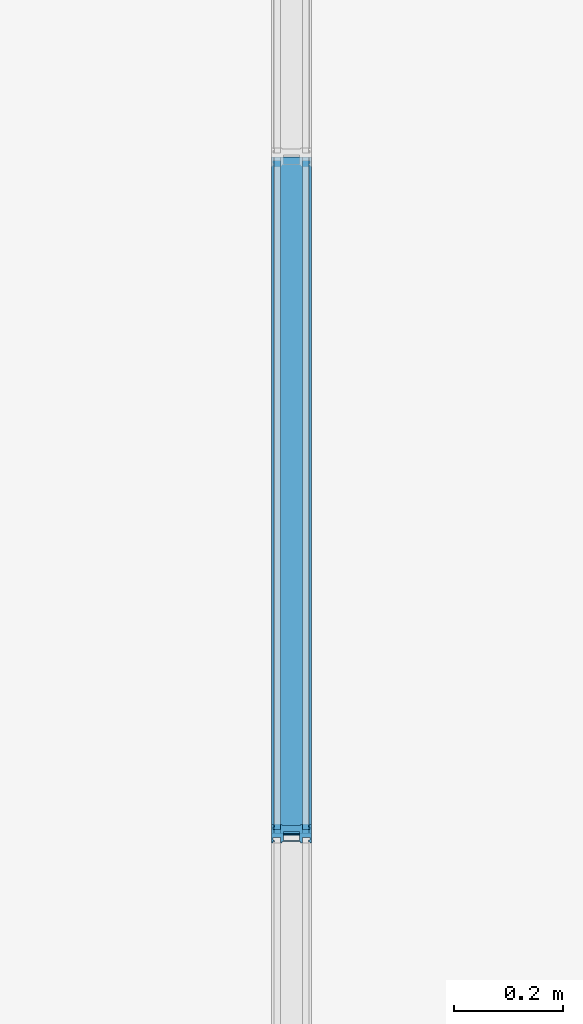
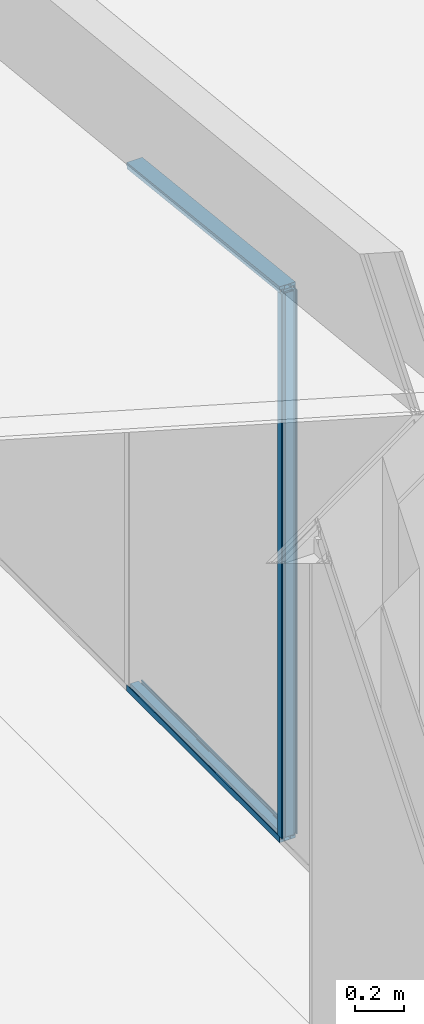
# One storey, part 18 of 43: 3 members, 1 element without a shape of its own.
"""IFC2X3 building model written with IfcOpenShell, lengths in millimetres."""

from ifc_helpers import new_model, entity, si_unit, converted_unit, derived_unit, money_unit, direction, frame, origin_with_axes, place, context, subcontext, project, spatial, faceted_brep, material, material_list, type_object, element, aggregate, save


model = new_model("IFC2X3")

# Units and contexts
model_context = context("Model", 3, precision=0.01, world=origin_with_axes(), true_north=direction((0.0, 1.0)))
body_context = subcontext(model_context, "Body", "Model", "MODEL_VIEW")
ifc_project = project(units=[si_unit("LENGTHUNIT", "METRE", prefix="MILLI"), si_unit("AREAUNIT", "SQUARE_METRE"), si_unit("VOLUMEUNIT", "CUBIC_METRE"), converted_unit("PLANEANGLEUNIT", "DEGREE", entity("IfcPlaneAngleMeasure", 0.0174532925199), si_unit("PLANEANGLEUNIT", "RADIAN"), dimensions=[0, 0, 0, 0, 0, 0, 0]), si_unit("SOLIDANGLEUNIT", "STERADIAN"), money_unit("EUR"), converted_unit("TIMEUNIT", "Year", entity("IfcTimeMeasure", 31556926.0), si_unit("TIMEUNIT", "SECOND"), dimensions=[0, 0, 1, 0, 0, 0, 0]), si_unit("MASSUNIT", "GRAM", prefix="KILO"), si_unit("THERMODYNAMICTEMPERATUREUNIT", "DEGREE_CELSIUS"), si_unit("LUMINOUSINTENSITYUNIT", "LUMEN"), si_unit("ENERGYUNIT", "JOULE", prefix="MEGA"), derived_unit("THERMALCONDUCTANCEUNIT", [(si_unit("POWERUNIT", "WATT"), 1), (si_unit("LENGTHUNIT", "METRE"), -1), (si_unit("THERMODYNAMICTEMPERATUREUNIT", "KELVIN"), -1)]), derived_unit("SPECIFICHEATCAPACITYUNIT", [(si_unit("ENERGYUNIT", "JOULE"), 1), (si_unit("MASSUNIT", "GRAM", prefix="KILO"), -1), (si_unit("THERMODYNAMICTEMPERATUREUNIT", "KELVIN"), -1)]), derived_unit("MASSDENSITYUNIT", [(si_unit("MASSUNIT", "GRAM", prefix="KILO"), 1), (si_unit("VOLUMEUNIT", "CUBIC_METRE"), -1)])], contexts=[model_context])

# Site, building, storey
site_placement = place(None, origin_with_axes())
site = spatial("IfcSite", under=ifc_project, at=site_placement, Name="L.Koidula tn 11b", CompositionType="ELEMENT")
building_placement = place(site_placement, origin_with_axes())
building = spatial("IfcBuilding", under=site, at=building_placement, Name="Rakvere Riigigümnaasium", CompositionType="ELEMENT")
storey_placement = place(building_placement, frame((0.0, 0.0, 6665.0), z_axis=(0.0, 0.0, 1.0), x_axis=(1.0, 0.0, 0.0)))
storey = spatial("IfcBuildingStorey", under=building, at=storey_placement, Name="3.korrus +6,66", CompositionType="ELEMENT", Elevation=6665.0)

# Curtain wall, members
curtain_wall_type = type_object("IfcCurtainWallType", Name="Curtain Wall Type", PredefinedType="NOTDEFINED")
curtain_wall_placement = place(storey_placement, frame((47567.9999955, 27513.9554945, 0.0), z_axis=(0.0, 0.0, 1.0), x_axis=(1.0, 0.0, 0.0)))
curtain_wall = element("IfcCurtainWall", 1, at=curtain_wall_placement, inside=storey, type_object=curtain_wall_type, Name="SKLF-27")
ifc_material_1 = material(Name="Klaasvill")
ifc_material_2 = material(Name="Teras RAL7012")
ifc_material_list = material_list([ifc_material_1, ifc_material_2])
member_type_1 = type_object("IfcMemberType", Name="Boundary Frame 30 x 42", PredefinedType="MULLION")
member_1_placement = place(curtain_wall_placement, frame((0.0, -622.5, 0.0), z_axis=(0.0, -1.0, 0.0), x_axis=(0.0, 0.0, 1.0)))
member_1 = element("IfcMember", 2, at=member_1_placement, type_object=member_type_1, material=ifc_material_list, Name="SKLF-02-raam", ObjectType="MULLION", context=body_context, shape_type="Brep", body=[
    faceted_brep([(7.49999990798, 15.000000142, 0.0), (13.8499999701, 15.000000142, 0.0), (13.8499999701, 15.000000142, 1246.0), (7.49999990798, 15.000000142, 1246.0), (7.49999990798, 29.0161444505, 0.0), (13.8499999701, 29.0161444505, 0.0), (13.8499999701, 29.0161444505, 1246.0), (7.49999990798, 29.0161444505, 1246.0)], [[[0, 1, 2, 3]], [[0, 4, 5, 1]], [[1, 5, 6, 2]], [[3, 2, 6, 7]], [[4, 0, 3, 7]], [[5, 4, 7, 6]]]),
    faceted_brep([(24.987414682, 29.0161444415, 0.0), (25.004489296, 27.0307503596, 0.0), (25.004489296, 27.0307503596, 1246.0), (24.987414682, 29.0161444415, 1246.0), (28.5126239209, 29.0161444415, 0.0), (28.7655837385, 28.0385325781, 0.0), (28.4955493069, 27.0307503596, 0.0), (27.75780152, 26.2930025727, 0.0), (26.7500193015, 26.0229681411, 0.0), (25.742237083, 26.2930025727, 0.0), (25.742237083, 26.2930025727, 1246.0), (26.7500193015, 26.0229681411, 1246.0), (27.75780152, 26.2930025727, 1246.0), (28.4955493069, 27.0307503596, 1246.0), (28.7655837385, 28.0385325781, 1246.0), (28.5126239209, 29.0161444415, 1246.0)], [[[0, 1, 2, 3]], [[0, 4, 5, 6, 7, 8, 9, 1]], [[1, 9, 10, 2]], [[3, 2, 10, 11, 12, 13, 14, 15]], [[4, 0, 3, 15]], [[5, 4, 15, 14]], [[6, 5, 14, 13]], [[7, 6, 13, 12]], [[8, 7, 12, 11]], [[9, 8, 11, 10]]]),
    faceted_brep([(7.49999990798, -24.9999997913, 0.0), (7.49999990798, -39.0161445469, 0.0), (7.49999990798, -39.0161445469, 1246.0), (7.49999990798, -24.9999997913, 1246.0), (13.8499999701, -24.9999997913, 0.0), (13.8499999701, -39.0161445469, 0.0), (13.8499999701, -39.0161445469, 1246.0), (13.8499999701, -24.9999997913, 1246.0)], [[[0, 1, 2, 3]], [[0, 4, 5, 1]], [[1, 5, 6, 2]], [[3, 2, 6, 7]], [[4, 0, 3, 7]], [[5, 4, 7, 6]]]),
    faceted_brep([(25.004489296, -37.0307503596, 0.0), (24.987414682, -39.0161444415, 0.0), (24.987414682, -39.0161444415, 1246.0), (25.004489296, -37.0307503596, 1246.0), (25.742237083, -36.2930025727, 0.0), (26.7500193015, -36.0229681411, 0.0), (27.75780152, -36.2930025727, 0.0), (28.4955493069, -37.0307503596, 0.0), (28.7655837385, -38.0385325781, 0.0), (28.5126239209, -39.0161444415, 0.0), (28.5126239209, -39.0161444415, 1246.0), (28.7655837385, -38.0385325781, 1246.0), (28.4955493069, -37.0307503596, 1246.0), (27.75780152, -36.2930025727, 1246.0), (26.7500193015, -36.0229681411, 1246.0), (25.742237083, -36.2930025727, 1246.0)], [[[0, 1, 2, 3]], [[0, 4, 5, 6, 7, 8, 9, 1]], [[1, 9, 10, 2]], [[3, 2, 10, 11, 12, 13, 14, 15]], [[4, 0, 3, 15]], [[5, 4, 15, 14]], [[6, 5, 14, 13]], [[7, 6, 13, 12]], [[8, 7, 12, 11]], [[9, 8, 11, 10]]]),
    faceted_brep([(0.0, -22.0000000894, 0.0), (29.5999996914, -22.0000000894, 0.0), (29.5999996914, -22.0000000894, 1246.0), (0.0, -22.0000000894, 1246.0), (0.0, 12.0000000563, 0.0), (29.5999996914, 12.0000000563, 0.0), (1.9999999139, 10.0000001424, 0.0), (1.9999999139, -20.0000001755, 0.0), (18.7999996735, -20.0000001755, 0.0), (18.7999996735, 10.0000001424, 0.0), (29.5999996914, 12.0000000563, 1246.0), (0.0, 12.0000000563, 1246.0), (1.9999999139, 10.0000001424, 1246.0), (18.7999996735, 10.0000001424, 1246.0), (18.7999996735, -20.0000001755, 1246.0), (1.9999999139, -20.0000001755, 1246.0)], [[[0, 1, 2, 3]], [[0, 4, 5, 1], [6, 7, 8, 9]], [[1, 5, 10, 2]], [[3, 2, 10, 11], [12, 13, 14, 15]], [[4, 0, 3, 11]], [[5, 4, 11, 10]], [[7, 6, 12, 15]], [[8, 7, 15, 14]], [[9, 8, 14, 13]], [[6, 9, 13, 12]]]),
    faceted_brep([(0.0, 12.0, 0.0), (29.5999996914, 12.0000000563, 0.0), (29.5999996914, 12.0000000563, 1246.0), (0.0, 12.0, 1246.0), (0.0, 32.0, 0.0), (30.0000193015, 32.0, 0.0), (30.0000193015, 29.0161444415, 0.0), (28.5126239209, 29.0161444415, 0.0), (24.987414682, 29.0161444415, 0.0), (13.8499999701, 29.0161444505, 0.0), (7.49999999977, 29.0161444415, 0.0), (7.49999999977, 15.0, 0.0), (13.8499999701, 15.000000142, 0.0), (30.0000193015, 15.0, 0.0), (30.0000193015, 12.0, 0.0), (30.0000193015, 12.0, 1246.0), (30.0000193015, 15.0, 1246.0), (13.8499999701, 15.000000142, 1246.0), (7.49999999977, 15.0, 1246.0), (7.49999999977, 29.0161444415, 1246.0), (13.8499999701, 29.0161444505, 1246.0), (24.987414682, 29.0161444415, 1246.0), (28.5126239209, 29.0161444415, 1246.0), (30.0000193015, 29.0161444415, 1246.0), (30.0000193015, 32.0, 1246.0), (0.0, 32.0, 1246.0)], [[[0, 1, 2, 3]], [[0, 4, 5, 6, 7, 8, 9, 10, 11, 12, 13, 14, 1]], [[1, 14, 15, 2]], [[3, 2, 15, 16, 17, 18, 19, 20, 21, 22, 23, 24, 25]], [[4, 0, 3, 25]], [[5, 4, 25, 24]], [[6, 5, 24, 23]], [[7, 6, 23, 22]], [[8, 7, 22, 21]], [[9, 8, 21, 20]], [[10, 9, 20, 19]], [[11, 10, 19, 18]], [[12, 11, 18, 17]], [[13, 12, 17, 16]], [[14, 13, 16, 15]]]),
    faceted_brep([(0.0, -22.0, 0.0), (0.0, -42.0, 0.0), (0.0, -42.0, 1246.0), (0.0, -22.0, 1246.0), (29.5999996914, -22.0000000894, 0.0), (30.0000193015, -22.0, 0.0), (30.0000193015, -25.0, 0.0), (13.8499999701, -24.9999997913, 0.0), (7.49999999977, -25.0, 0.0), (7.49999999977, -39.0161444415, 0.0), (13.8499999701, -39.0161445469, 0.0), (24.987414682, -39.0161444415, 0.0), (28.5126239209, -39.0161444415, 0.0), (30.0000193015, -39.0161444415, 0.0), (30.0000193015, -42.0, 0.0), (30.0000193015, -42.0, 1246.0), (30.0000193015, -39.0161444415, 1246.0), (28.5126239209, -39.0161444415, 1246.0), (24.987414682, -39.0161444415, 1246.0), (13.8499999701, -39.0161445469, 1246.0), (7.49999999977, -39.0161444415, 1246.0), (7.49999999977, -25.0, 1246.0), (13.8499999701, -24.9999997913, 1246.0), (30.0000193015, -25.0, 1246.0), (30.0000193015, -22.0, 1246.0), (29.5999996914, -22.0000000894, 1246.0)], [[[0, 1, 2, 3]], [[0, 4, 5, 6, 7, 8, 9, 10, 11, 12, 13, 14, 1]], [[1, 14, 15, 2]], [[3, 2, 15, 16, 17, 18, 19, 20, 21, 22, 23, 24, 25]], [[4, 0, 3, 25]], [[5, 4, 25, 24]], [[6, 5, 24, 23]], [[7, 6, 23, 22]], [[8, 7, 22, 21]], [[9, 8, 21, 20]], [[10, 9, 20, 19]], [[11, 10, 19, 18]], [[12, 11, 18, 17]], [[13, 12, 17, 16]], [[14, 13, 16, 15]]]),
])
member_2_placement = place(curtain_wall_placement, frame((0.0, -1868.5, 2761.36989772), z_axis=(0.0, 0.994032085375, -0.109088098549), x_axis=(0.0, -0.109088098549, -0.994032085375)))
member_2 = element("IfcMember", 3, at=member_2_placement, type_object=member_type_1, material=ifc_material_list, Name="SKLF-06-raam", ObjectType="MULLION", context=body_context, shape_type="Brep", body=[
    faceted_brep([(7.49999990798, 15.000000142, -1.89357410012e-07), (13.8499999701, 15.000000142, -1.89357410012e-07), (13.8499999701, 15.000000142, 1253.48066579), (7.49999990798, 15.000000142, 1253.48066579), (7.49999990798, 29.0161444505, -1.89357410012e-07), (13.8499999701, 29.0161444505, -1.89357410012e-07), (13.8499999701, 29.0161444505, 1253.48066579), (7.49999990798, 29.0161444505, 1253.48066579)], [[[0, 1, 2, 3]], [[0, 4, 5, 1]], [[1, 5, 6, 2]], [[3, 2, 6, 7]], [[4, 0, 3, 7]], [[5, 4, 7, 6]]]),
    faceted_brep([(24.987414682, 29.0161444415, -1.89357410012e-07), (25.004489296, 27.0307503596, -1.89357410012e-07), (25.004489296, 27.0307503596, 1253.48066579), (24.987414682, 29.0161444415, 1253.48066579), (28.5126239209, 29.0161444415, -1.89357410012e-07), (28.7655837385, 28.0385325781, -1.89357410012e-07), (28.4955493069, 27.0307503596, -1.89357410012e-07), (27.75780152, 26.2930025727, -1.89357410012e-07), (26.7500193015, 26.0229681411, -1.89357410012e-07), (25.742237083, 26.2930025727, -1.89357410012e-07), (25.742237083, 26.2930025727, 1253.48066579), (26.7500193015, 26.0229681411, 1253.48066579), (27.75780152, 26.2930025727, 1253.48066579), (28.4955493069, 27.0307503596, 1253.48066579), (28.7655837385, 28.0385325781, 1253.48066579), (28.5126239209, 29.0161444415, 1253.48066579)], [[[0, 1, 2, 3]], [[0, 4, 5, 6, 7, 8, 9, 1]], [[1, 9, 10, 2]], [[3, 2, 10, 11, 12, 13, 14, 15]], [[4, 0, 3, 15]], [[5, 4, 15, 14]], [[6, 5, 14, 13]], [[7, 6, 13, 12]], [[8, 7, 12, 11]], [[9, 8, 11, 10]]]),
    faceted_brep([(7.49999990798, -24.9999997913, -1.89357410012e-07), (7.49999990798, -39.0161445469, -1.89357410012e-07), (7.49999990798, -39.0161445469, 1253.48066579), (7.49999990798, -24.9999997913, 1253.48066579), (13.8499999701, -24.9999997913, -1.89357410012e-07), (13.8499999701, -39.0161445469, -1.89357410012e-07), (13.8499999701, -39.0161445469, 1253.48066579), (13.8499999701, -24.9999997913, 1253.48066579)], [[[0, 1, 2, 3]], [[0, 4, 5, 1]], [[1, 5, 6, 2]], [[3, 2, 6, 7]], [[4, 0, 3, 7]], [[5, 4, 7, 6]]]),
    faceted_brep([(25.004489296, -37.0307503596, -1.89357410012e-07), (24.987414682, -39.0161444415, -1.89357410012e-07), (24.987414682, -39.0161444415, 1253.48066579), (25.004489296, -37.0307503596, 1253.48066579), (25.742237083, -36.2930025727, -1.89357410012e-07), (26.7500193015, -36.0229681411, -1.89357410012e-07), (27.75780152, -36.2930025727, -1.89357410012e-07), (28.4955493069, -37.0307503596, -1.89357410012e-07), (28.7655837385, -38.0385325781, -1.89357410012e-07), (28.5126239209, -39.0161444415, -1.89357410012e-07), (28.5126239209, -39.0161444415, 1253.48066579), (28.7655837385, -38.0385325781, 1253.48066579), (28.4955493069, -37.0307503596, 1253.48066579), (27.75780152, -36.2930025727, 1253.48066579), (26.7500193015, -36.0229681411, 1253.48066579), (25.742237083, -36.2930025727, 1253.48066579)], [[[0, 1, 2, 3]], [[0, 4, 5, 6, 7, 8, 9, 1]], [[1, 9, 10, 2]], [[3, 2, 10, 11, 12, 13, 14, 15]], [[4, 0, 3, 15]], [[5, 4, 15, 14]], [[6, 5, 14, 13]], [[7, 6, 13, 12]], [[8, 7, 12, 11]], [[9, 8, 11, 10]]]),
    faceted_brep([(0.0, -22.0000000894, -1.89357410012e-07), (29.5999996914, -22.0000000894, -1.89357410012e-07), (29.5999996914, -22.0000000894, 1253.48066579), (0.0, -22.0000000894, 1253.48066579), (0.0, 12.0000000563, -1.89357410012e-07), (29.5999996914, 12.0000000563, -1.89357410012e-07), (1.9999999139, 10.0000001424, -1.89357410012e-07), (1.9999999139, -20.0000001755, -1.89357410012e-07), (18.7999996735, -20.0000001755, -1.89357410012e-07), (18.7999996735, 10.0000001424, -1.89357410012e-07), (29.5999996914, 12.0000000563, 1253.48066579), (0.0, 12.0000000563, 1253.48066579), (1.9999999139, 10.0000001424, 1253.48066579), (18.7999996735, 10.0000001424, 1253.48066579), (18.7999996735, -20.0000001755, 1253.48066579), (1.9999999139, -20.0000001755, 1253.48066579)], [[[0, 1, 2, 3]], [[0, 4, 5, 1], [6, 7, 8, 9]], [[1, 5, 10, 2]], [[3, 2, 10, 11], [12, 13, 14, 15]], [[4, 0, 3, 11]], [[5, 4, 11, 10]], [[7, 6, 12, 15]], [[8, 7, 15, 14]], [[9, 8, 14, 13]], [[6, 9, 13, 12]]]),
    faceted_brep([(0.0, 12.0, -1.89357410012e-07), (29.5999996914, 12.0000000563, -1.89357410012e-07), (29.5999996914, 12.0000000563, 1253.48066579), (0.0, 12.0, 1253.48066579), (0.0, 32.0, -1.89357410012e-07), (30.0000193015, 32.0, -1.89357410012e-07), (30.0000193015, 29.0161444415, -1.89357410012e-07), (28.5126239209, 29.0161444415, -1.89357410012e-07), (24.987414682, 29.0161444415, -1.89357410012e-07), (13.8499999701, 29.0161444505, -1.89357410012e-07), (7.49999999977, 29.0161444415, -1.89357410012e-07), (7.49999999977, 15.0, -1.89357410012e-07), (13.8499999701, 15.000000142, -1.89357410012e-07), (30.0000193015, 15.0, -1.89357410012e-07), (30.0000193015, 12.0, -1.89357410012e-07), (30.0000193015, 12.0, 1253.48066579), (30.0000193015, 15.0, 1253.48066579), (13.8499999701, 15.000000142, 1253.48066579), (7.49999999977, 15.0, 1253.48066579), (7.49999999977, 29.0161444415, 1253.48066579), (13.8499999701, 29.0161444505, 1253.48066579), (24.987414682, 29.0161444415, 1253.48066579), (28.5126239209, 29.0161444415, 1253.48066579), (30.0000193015, 29.0161444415, 1253.48066579), (30.0000193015, 32.0, 1253.48066579), (0.0, 32.0, 1253.48066579)], [[[0, 1, 2, 3]], [[0, 4, 5, 6, 7, 8, 9, 10, 11, 12, 13, 14, 1]], [[1, 14, 15, 2]], [[3, 2, 15, 16, 17, 18, 19, 20, 21, 22, 23, 24, 25]], [[4, 0, 3, 25]], [[5, 4, 25, 24]], [[6, 5, 24, 23]], [[7, 6, 23, 22]], [[8, 7, 22, 21]], [[9, 8, 21, 20]], [[10, 9, 20, 19]], [[11, 10, 19, 18]], [[12, 11, 18, 17]], [[13, 12, 17, 16]], [[14, 13, 16, 15]]]),
    faceted_brep([(0.0, -22.0, -1.89357410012e-07), (0.0, -42.0, -1.89357410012e-07), (0.0, -42.0, 1253.48066579), (0.0, -22.0, 1253.48066579), (29.5999996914, -22.0000000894, -1.89357410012e-07), (30.0000193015, -22.0, -1.89357410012e-07), (30.0000193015, -25.0, -1.89357410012e-07), (13.8499999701, -24.9999997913, -1.89357410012e-07), (7.49999999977, -25.0, -1.89357410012e-07), (7.49999999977, -39.0161444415, -1.89357410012e-07), (13.8499999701, -39.0161445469, -1.89357410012e-07), (24.987414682, -39.0161444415, -1.89357410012e-07), (28.5126239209, -39.0161444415, -1.89357410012e-07), (30.0000193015, -39.0161444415, -1.89357410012e-07), (30.0000193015, -42.0, -1.89357410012e-07), (30.0000193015, -42.0, 1253.48066579), (30.0000193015, -39.0161444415, 1253.48066579), (28.5126239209, -39.0161444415, 1253.48066579), (24.987414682, -39.0161444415, 1253.48066579), (13.8499999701, -39.0161445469, 1253.48066579), (7.49999999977, -39.0161444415, 1253.48066579), (7.49999999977, -25.0, 1253.48066579), (13.8499999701, -24.9999997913, 1253.48066579), (30.0000193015, -25.0, 1253.48066579), (30.0000193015, -22.0, 1253.48066579), (29.5999996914, -22.0000000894, 1253.48066579)], [[[0, 1, 2, 3]], [[0, 4, 5, 6, 7, 8, 9, 10, 11, 12, 13, 14, 1]], [[1, 14, 15, 2]], [[3, 2, 15, 16, 17, 18, 19, 20, 21, 22, 23, 24, 25]], [[4, 0, 3, 25]], [[5, 4, 25, 24]], [[6, 5, 24, 23]], [[7, 6, 23, 22]], [[8, 7, 22, 21]], [[9, 8, 21, 20]], [[10, 9, 20, 19]], [[11, 10, 19, 18]], [[12, 11, 18, 17]], [[13, 12, 17, 16]], [[14, 13, 16, 15]]]),
])
member_type_2 = type_object("IfcMemberType", Name="Siseklaasfassaad-Vaheprofiil-Doubleline30 34 x 42", PredefinedType="MULLION")
member_3_placement = place(curtain_wall_placement, frame((0.0, -1868.5, 0.0), z_axis=(0.0, 0.0, 1.0), x_axis=(0.0, 1.0, 0.0)))
member_3 = element("IfcMember", 4, at=member_3_placement, type_object=member_type_2, material=ifc_material_list, Name="Frame-Siseklaasf-089", ObjectType="MULLION", context=body_context, shape_type="Brep", body=[
    faceted_brep([(12.004489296, 27.0307503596, 30.0000193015), (12.004489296, 27.0307503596, 2729.87235668), (11.987414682, 29.0161444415, 2729.8742305), (11.987414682, 29.0161444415, 30.0000193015), (12.742237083, 26.2930025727, 30.0000193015), (12.742237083, 26.2930025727, 2729.79139398), (13.7500193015, 26.0229681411, 2729.68079689), (14.75780152, 26.2930025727, 2729.5701998), (15.4955493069, 27.0307503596, 2729.48923711), (15.7655837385, 28.0385325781, 2729.45960271), (15.5126239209, 29.0161444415, 2729.48736329), (15.5126239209, 29.0161444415, 30.0000193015), (15.7655837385, 28.0385325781, 30.0000193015), (15.4955493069, 27.0307503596, 30.0000193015), (14.75780152, 26.2930025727, 30.0000193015), (13.7500193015, 26.0229681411, 30.0000193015)], [[[0, 1, 2, 3]], [[4, 5, 1, 0]], [[2, 1, 5, 6, 7, 8, 9, 10]], [[3, 2, 10, 11]], [[3, 11, 12, 13, 14, 15, 4, 0]], [[15, 6, 5, 4]], [[14, 7, 6, 15]], [[13, 8, 7, 14]], [[12, 9, 8, 13]], [[11, 10, 9, 12]]]),
    faceted_brep([(15.4955493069, -37.0307503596, 30.0000193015), (15.4955493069, -37.0307503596, 2729.48923711), (15.5126239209, -39.0161444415, 2729.48736329), (15.5126239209, -39.0161444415, 30.0000193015), (14.75780152, -36.2930025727, 30.0000193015), (14.75780152, -36.2930025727, 2729.5701998), (13.7500193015, -36.0229681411, 2729.68079689), (12.742237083, -36.2930025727, 2729.79139398), (12.004489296, -37.0307503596, 2729.87235668), (11.7344548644, -38.0385325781, 2729.90199108), (11.987414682, -39.0161444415, 2729.8742305), (11.987414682, -39.0161444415, 30.0000193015), (11.7344548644, -38.0385325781, 30.0000193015), (12.004489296, -37.0307503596, 30.0000193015), (12.742237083, -36.2930025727, 30.0000193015), (13.7500193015, -36.0229681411, 30.0000193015)], [[[0, 1, 2, 3]], [[4, 5, 1, 0]], [[2, 1, 5, 6, 7, 8, 9, 10]], [[3, 2, 10, 11]], [[3, 11, 12, 13, 14, 15, 4, 0]], [[15, 6, 5, 4]], [[14, 7, 6, 15]], [[13, 8, 7, 14]], [[12, 9, 8, 13]], [[11, 10, 9, 12]]]),
    faceted_brep([(-15.7655837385, 28.0385325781, 30.0000193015), (-15.7655837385, 28.0385325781, 2732.91992914), (-11.987414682, 29.0161444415, 2732.50530135), (-11.987414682, 29.0161444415, 30.0000193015), (-15.4955493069, 27.0307503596, 30.0000193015), (-15.4955493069, 27.0307503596, 2732.89029474), (-14.75780152, 26.2930025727, 2732.80933205), (-13.7500193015, 26.0229681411, 2732.69873496), (-12.742237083, 26.2930025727, 2732.58813787), (-12.004489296, 27.0307503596, 2732.50717518), (-11.7344548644, 28.0385325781, 2732.47754077), (-11.7344548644, 28.0385325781, 30.0000193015), (-12.004489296, 27.0307503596, 30.0000193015), (-12.742237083, 26.2930025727, 30.0000193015), (-13.7500193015, 26.0229681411, 30.0000193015), (-14.75780152, 26.2930025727, 30.0000193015)], [[[0, 1, 2, 3]], [[4, 5, 1, 0]], [[2, 1, 5, 6, 7, 8, 9, 10]], [[3, 2, 10, 11]], [[3, 11, 12, 13, 14, 15, 4, 0]], [[15, 6, 5, 4]], [[14, 7, 6, 15]], [[13, 8, 7, 14]], [[12, 9, 8, 13]], [[11, 10, 9, 12]]]),
    faceted_brep([(-15.5126239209, -39.0161444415, 30.0000193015), (-15.5126239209, -39.0161444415, 2732.89216856), (-15.4955493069, -37.0307503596, 2732.89029474), (-15.4955493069, -37.0307503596, 30.0000193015), (-11.987414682, -39.0161444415, 30.0000193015), (-11.987414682, -39.0161444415, 2732.50530135), (-11.7344548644, -38.0385325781, 2732.47754077), (-12.004489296, -37.0307503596, 2732.50717518), (-12.742237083, -36.2930025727, 2732.58813787), (-13.7500193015, -36.0229681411, 2732.69873496), (-14.75780152, -36.2930025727, 2732.80933205), (-14.75780152, -36.2930025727, 30.0000193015), (-13.7500193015, -36.0229681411, 30.0000193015), (-12.742237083, -36.2930025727, 30.0000193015), (-12.004489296, -37.0307503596, 30.0000193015), (-11.7344548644, -38.0385325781, 30.0000193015)], [[[0, 1, 2, 3]], [[4, 5, 1, 0]], [[2, 1, 5, 6, 7, 8, 9, 10]], [[3, 2, 10, 11]], [[3, 11, 12, 13, 14, 15, 4, 0]], [[15, 6, 5, 4]], [[14, 7, 6, 15]], [[13, 8, 7, 14]], [[12, 9, 8, 13]], [[11, 10, 9, 12]]]),
    faceted_brep([(-3.08905781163e-07, -22.0000000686, 30.0000193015), (-3.08905781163e-07, -22.0000000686, 2731.18976596), (-14.8000001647, -22.0000000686, 2732.81396306), (-14.8000001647, -22.0000000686, 30.0000193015), (14.8000003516, -22.0000000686, 30.0000193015), (14.8000003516, -22.0000000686, 2729.56556877), (14.8000003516, 12.0000001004, 2729.56556877), (-3.08905781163e-07, 12.0000001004, 2731.18976596), (-14.8000001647, 12.0000001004, 2732.81396306), (-12.8000002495, 10.0000001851, 2732.59447697), (4.0000003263, 10.0000001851, 2730.7507937), (4.0000003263, -20.0000001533, 2730.7507937), (-12.8000002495, -20.0000001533, 2732.59447697), (-14.8000001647, 12.0000001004, 30.0000193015), (-3.08905781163e-07, 12.0000001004, 30.0000193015), (14.8000003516, 12.0000001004, 30.0000193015), (-12.8000002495, 10.0000001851, 30.0000193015), (-12.8000002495, -20.0000001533, 30.0000193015), (4.0000003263, -20.0000001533, 30.0000193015), (4.0000003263, 10.0000001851, 30.0000193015)], [[[0, 1, 2, 3]], [[4, 5, 1, 0]], [[2, 1, 5, 6, 7, 8], [9, 10, 11, 12]], [[3, 2, 8, 13]], [[3, 13, 14, 15, 4, 0], [16, 17, 18, 19]], [[15, 6, 5, 4]], [[14, 7, 6, 15]], [[13, 8, 7, 14]], [[19, 10, 9, 16]], [[18, 11, 10, 19]], [[17, 12, 11, 18]], [[16, 9, 12, 17]]]),
    faceted_brep([(0.0, 12.0, 30.0000193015), (0.0, 12.0, 2731.18976593), (0.0, 32.0000000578, 2731.18976593), (0.0, 32.0000000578, 30.0000193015), (14.8000003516, 12.0000001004, 30.0000193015), (14.8000003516, 12.0000001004, 2729.56556877), (17.0000193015, 12.0, 2729.32413198), (17.0000193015, 15.0000000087, 2729.32413198), (7.50000002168, 15.0000000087, 2730.36669306), (7.50000002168, 29.0161446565, 2730.36669306), (11.987414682, 29.0161444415, 2729.8742305), (15.5126239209, 29.0161444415, 2729.48736329), (17.0000193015, 29.0161446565, 2729.32413198), (17.0000193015, 32.0000000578, 2729.32413198), (17.0000193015, 32.0000000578, 30.0000193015), (17.0000193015, 29.0161446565, 30.0000193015), (15.5126239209, 29.0161444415, 30.0000193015), (11.987414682, 29.0161444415, 30.0000193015), (7.50000002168, 29.0161446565, 30.0000193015), (7.50000002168, 15.0000000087, 30.0000193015), (17.0000193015, 15.0000000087, 30.0000193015), (17.0000193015, 12.0, 30.0000193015)], [[[0, 1, 2, 3]], [[4, 5, 1, 0]], [[2, 1, 5, 6, 7, 8, 9, 10, 11, 12, 13]], [[3, 2, 13, 14]], [[3, 14, 15, 16, 17, 18, 19, 20, 21, 4, 0]], [[21, 6, 5, 4]], [[20, 7, 6, 21]], [[19, 8, 7, 20]], [[18, 9, 8, 19]], [[17, 10, 9, 18]], [[16, 11, 10, 17]], [[15, 12, 11, 16]], [[14, 13, 12, 15]]]),
    faceted_brep([(0.0, -42.0, 30.0000193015), (0.0, -42.0, 2731.18976593), (0.0, -21.9999999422, 2731.18976593), (0.0, -21.9999999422, 30.0000193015), (17.0000193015, -42.0, 30.0000193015), (17.0000193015, -42.0, 2729.32413198), (17.0000193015, -39.0161445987, 2729.32413198), (15.5126239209, -39.0161444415, 2729.48736329), (11.987414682, -39.0161444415, 2729.8742305), (7.50000002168, -39.0161445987, 2730.36669306), (7.50000002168, -24.9999999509, 2730.36669306), (17.0000193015, -24.9999999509, 2729.32413198), (17.0000193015, -21.9999999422, 2729.32413198), (14.8000003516, -22.0000000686, 2729.56556877), (14.8000003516, -22.0000000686, 30.0000193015), (17.0000193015, -21.9999999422, 30.0000193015), (17.0000193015, -24.9999999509, 30.0000193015), (7.50000002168, -24.9999999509, 30.0000193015), (7.50000002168, -39.0161445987, 30.0000193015), (11.987414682, -39.0161444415, 30.0000193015), (15.5126239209, -39.0161444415, 30.0000193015), (17.0000193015, -39.0161445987, 30.0000193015)], [[[0, 1, 2, 3]], [[4, 5, 1, 0]], [[2, 1, 5, 6, 7, 8, 9, 10, 11, 12, 13]], [[3, 2, 13, 14]], [[3, 14, 15, 16, 17, 18, 19, 20, 21, 4, 0]], [[21, 6, 5, 4]], [[20, 7, 6, 21]], [[19, 8, 7, 20]], [[18, 9, 8, 19]], [[17, 10, 9, 18]], [[16, 11, 10, 17]], [[15, 12, 11, 16]], [[14, 13, 12, 15]]]),
    faceted_brep([(0.0, 32.0, 30.0000193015), (0.0, 32.0, 2731.18976593), (0.0, 12.0, 2731.18976593), (0.0, 12.0, 30.0000193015), (-17.0000193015, 32.0, 30.0000193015), (-17.0000193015, 32.0, 2733.05539987), (-17.0000193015, 29.0161444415, 2733.05539987), (-15.5126239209, 29.0161444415, 2732.89216856), (-11.987414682, 29.0161444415, 2732.50530135), (-7.49999999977, 29.0161444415, 2732.01283879), (-7.49999999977, 15.0, 2732.01283879), (-17.0000193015, 15.0, 2733.05539987), (-17.0000193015, 12.0, 2733.05539987), (-14.8000001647, 12.0000001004, 2732.81396306), (-14.8000001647, 12.0000001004, 30.0000193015), (-17.0000193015, 12.0, 30.0000193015), (-17.0000193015, 15.0, 30.0000193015), (-7.49999999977, 15.0, 30.0000193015), (-7.49999999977, 29.0161444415, 30.0000193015), (-11.987414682, 29.0161444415, 30.0000193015), (-15.5126239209, 29.0161444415, 30.0000193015), (-17.0000193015, 29.0161444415, 30.0000193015)], [[[0, 1, 2, 3]], [[4, 5, 1, 0]], [[2, 1, 5, 6, 7, 8, 9, 10, 11, 12, 13]], [[3, 2, 13, 14]], [[3, 14, 15, 16, 17, 18, 19, 20, 21, 4, 0]], [[21, 6, 5, 4]], [[20, 7, 6, 21]], [[19, 8, 7, 20]], [[18, 9, 8, 19]], [[17, 10, 9, 18]], [[16, 11, 10, 17]], [[15, 12, 11, 16]], [[14, 13, 12, 15]]]),
    faceted_brep([(-14.8000001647, -22.0000000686, 30.0000193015), (-14.8000001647, -22.0000000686, 2732.81396306), (0.0, -22.0, 2731.18976593), (0.0, -22.0, 30.0000193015), (-17.0000193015, -22.0, 30.0000193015), (-17.0000193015, -22.0, 2733.05539987), (-17.0000193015, -25.0, 2733.05539987), (-7.49999999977, -25.0, 2732.01283879), (-7.49999999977, -39.0161444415, 2732.01283879), (-11.987414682, -39.0161444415, 2732.50530135), (-15.5126239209, -39.0161444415, 2732.89216856), (-17.0000193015, -39.0161444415, 2733.05539987), (-17.0000193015, -42.0, 2733.05539987), (0.0, -42.0, 2731.18976593), (0.0, -42.0, 30.0000193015), (-17.0000193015, -42.0, 30.0000193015), (-17.0000193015, -39.0161444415, 30.0000193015), (-15.5126239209, -39.0161444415, 30.0000193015), (-11.987414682, -39.0161444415, 30.0000193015), (-7.49999999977, -39.0161444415, 30.0000193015), (-7.49999999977, -25.0, 30.0000193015), (-17.0000193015, -25.0, 30.0000193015)], [[[0, 1, 2, 3]], [[4, 5, 1, 0]], [[2, 1, 5, 6, 7, 8, 9, 10, 11, 12, 13]], [[3, 2, 13, 14]], [[3, 14, 15, 16, 17, 18, 19, 20, 21, 4, 0]], [[21, 6, 5, 4]], [[20, 7, 6, 21]], [[19, 8, 7, 20]], [[18, 9, 8, 19]], [[17, 10, 9, 18]], [[16, 11, 10, 17]], [[15, 12, 11, 16]], [[14, 13, 12, 15]]]),
])
aggregate(curtain_wall, [member_1, member_2, member_3])

save(model, "model.ifc")
